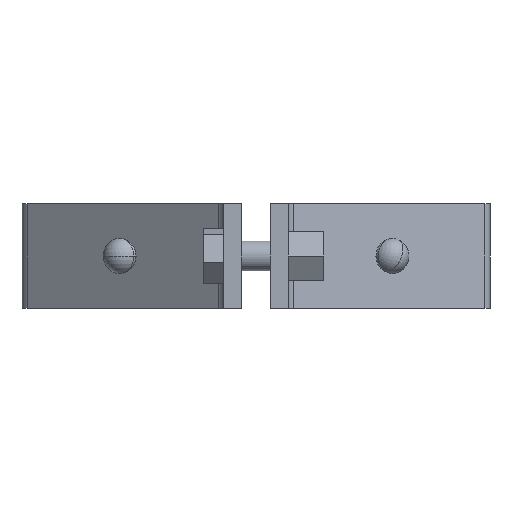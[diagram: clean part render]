
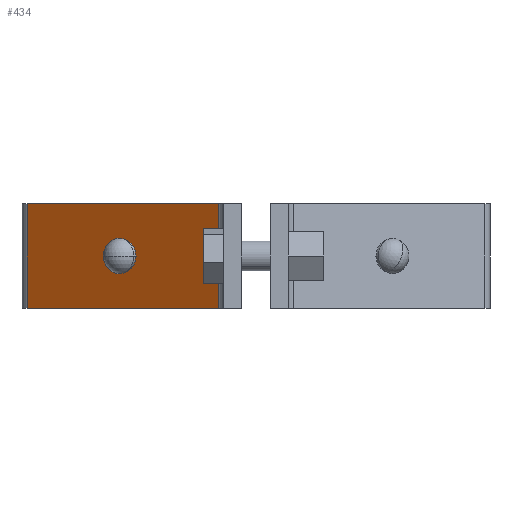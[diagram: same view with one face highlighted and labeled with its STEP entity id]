
A CAD part, left-side view. The second image highlights one B-rep face of the part: STEP entity #434.
In plain terms, the highlighted planar face has unit normal (-0.803, 0.596, 0).
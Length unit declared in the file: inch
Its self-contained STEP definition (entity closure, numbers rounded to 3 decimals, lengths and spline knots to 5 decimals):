
#9 = CARTESIAN_POINT ( 'NONE',  ( 0.74598, 0.22747, 0. ) ) ;
#10 = DIRECTION ( 'NONE',  ( -0.596, -0.803, 0. ) ) ;
#140 = EDGE_CURVE ( 'NONE', #605, #563, #1300, .T. ) ;
#156 = EDGE_CURVE ( 'NONE', #566, #1389, #533, .T. ) ;
#178 = DIRECTION ( 'NONE',  ( -0.596, -0.803, 0. ) ) ;
#302 = VECTOR ( 'NONE', #1905, 39.37008 ) ;
#310 = LINE ( 'NONE', #321, #1171 ) ;
#321 = CARTESIAN_POINT ( 'NONE',  ( 0.7085, 0.177, -1.024 ) ) ;
#372 = VECTOR ( 'NONE', #1137, 39.37008 ) ;
#376 = CARTESIAN_POINT ( 'NONE',  ( 2.14752, 2.11453, -1.024 ) ) ;
#390 = CARTESIAN_POINT ( 'NONE',  ( 2.14752, 2.11453, 0. ) ) ;
#421 = EDGE_CURVE ( 'NONE', #1389, #1943, #310, .T. ) ;
#434 = ADVANCED_FACE ( 'NONE', ( #641, #871 ), #1373, .T. ) ;
#533 = LINE ( 'NONE', #376, #1767 ) ;
#552 = DIRECTION ( 'NONE',  ( -0.803, 0.596, 0. ) ) ;
#562 = DIRECTION ( 'NONE',  ( 0., 0., -1. ) ) ;
#563 = VERTEX_POINT ( 'NONE', #1945 ) ;
#566 = VERTEX_POINT ( 'NONE', #390 ) ;
#605 = VERTEX_POINT ( 'NONE', #748 ) ;
#641 = FACE_BOUND ( 'NONE', #1178, .T. ) ;
#672 = ORIENTED_EDGE ( 'NONE', *, *, #140, .F. ) ;
#712 = DIRECTION ( 'NONE',  ( -0.803, 0.596, 0. ) ) ;
#715 = CARTESIAN_POINT ( 'NONE',  ( 1.44675, 1.171, -0.512 ) ) ;
#748 = CARTESIAN_POINT ( 'NONE',  ( 1.35284, 1.04456, -0.512 ) ) ;
#871 = FACE_OUTER_BOUND ( 'NONE', #2169, .T. ) ;
#900 = AXIS2_PLACEMENT_3D ( 'NONE', #715, #552, #1410 ) ;
#1095 = EDGE_CURVE ( 'NONE', #566, #1871, #1797, .T. ) ;
#1137 = DIRECTION ( 'NONE',  ( -0.596, -0.803, 0. ) ) ;
#1156 = ORIENTED_EDGE ( 'NONE', *, *, #1456, .F. ) ;
#1171 = VECTOR ( 'NONE', #178, 39.37008 ) ;
#1178 = EDGE_LOOP ( 'NONE', ( #672, #1156 ) ) ;
#1200 = CARTESIAN_POINT ( 'NONE',  ( 0.7085, 0.177, -1.024 ) ) ;
#1299 = ORIENTED_EDGE ( 'NONE', *, *, #156, .T. ) ;
#1300 = CIRCLE ( 'NONE', #900, 0.1575 ) ;
#1304 = ORIENTED_EDGE ( 'NONE', *, *, #1401, .T. ) ;
#1351 = DIRECTION ( 'NONE',  ( -0.803, 0.596, 0. ) ) ;
#1373 = PLANE ( 'NONE',  #1491 ) ;
#1387 = CIRCLE ( 'NONE', #1388, 0.1575 ) ;
#1388 = AXIS2_PLACEMENT_3D ( 'NONE', #1914, #712, #1400 ) ;
#1389 = VERTEX_POINT ( 'NONE', #1548 ) ;
#1400 = DIRECTION ( 'NONE',  ( -0.596, -0.803, 0. ) ) ;
#1401 = EDGE_CURVE ( 'NONE', #1943, #1871, #1936, .T. ) ;
#1410 = DIRECTION ( 'NONE',  ( -0.596, -0.803, 0. ) ) ;
#1446 = CARTESIAN_POINT ( 'NONE',  ( 0.74598, 0.22747, 0. ) ) ;
#1456 = EDGE_CURVE ( 'NONE', #563, #605, #1387, .T. ) ;
#1491 = AXIS2_PLACEMENT_3D ( 'NONE', #1200, #1351, #10 ) ;
#1495 = ORIENTED_EDGE ( 'NONE', *, *, #1095, .F. ) ;
#1516 = CARTESIAN_POINT ( 'NONE',  ( 0.74598, 0.22747, -1.024 ) ) ;
#1540 = ORIENTED_EDGE ( 'NONE', *, *, #421, .T. ) ;
#1548 = CARTESIAN_POINT ( 'NONE',  ( 2.14752, 2.11453, -1.024 ) ) ;
#1767 = VECTOR ( 'NONE', #562, 39.37008 ) ;
#1797 = LINE ( 'NONE', #1807, #372 ) ;
#1807 = CARTESIAN_POINT ( 'NONE',  ( 0.7085, 0.177, 0. ) ) ;
#1871 = VERTEX_POINT ( 'NONE', #1446 ) ;
#1905 = DIRECTION ( 'NONE',  ( 0., 0., 1. ) ) ;
#1914 = CARTESIAN_POINT ( 'NONE',  ( 1.44675, 1.171, -0.512 ) ) ;
#1936 = LINE ( 'NONE', #9, #302 ) ;
#1943 = VERTEX_POINT ( 'NONE', #1516 ) ;
#1945 = CARTESIAN_POINT ( 'NONE',  ( 1.54066, 1.29744, -0.512 ) ) ;
#2169 = EDGE_LOOP ( 'NONE', ( #1495, #1299, #1540, #1304 ) ) ;
